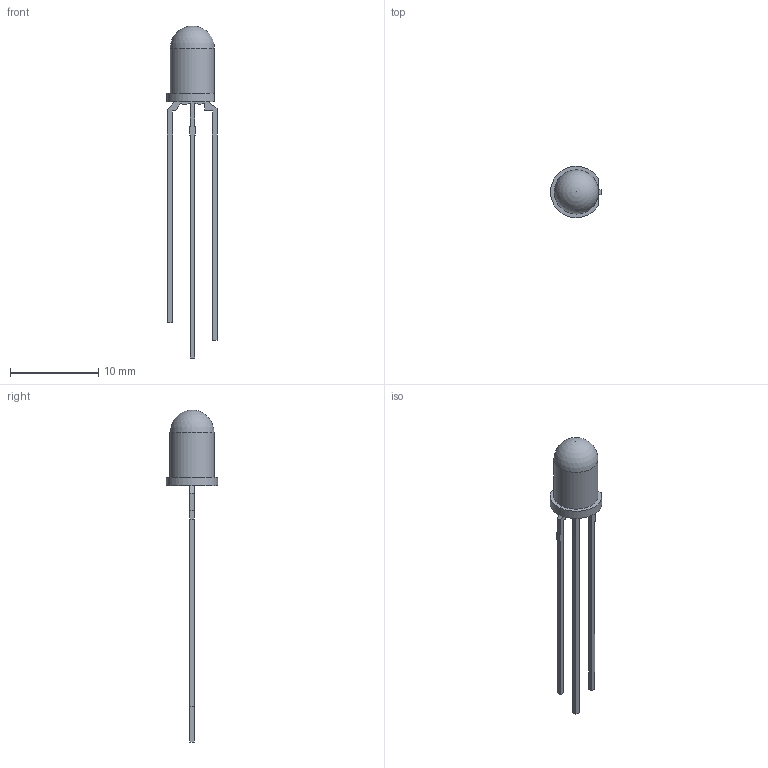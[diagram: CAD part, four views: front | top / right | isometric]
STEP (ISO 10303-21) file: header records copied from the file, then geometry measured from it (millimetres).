
FILE_DESCRIPTION(/* description */ ('STEP AP242','CAx-IF Rec.Pracs.---Representation and Presentation of Product Manufacturing Information (PMI)---4.0---2014-10-13','CAx-IF Rec.Pracs.---3D Tessellated Geometry---0.4---2014-09-14','2;1'),/* implementation_level */ '2;1');
FILE_NAME(/* name */ '62b625adae8fb23cede81473',/* time_stamp */ '2022-06-24T20:59:25+00:00',/* author */ (''),/* organization */ (''),/* preprocessor_version */ 'ST-DEVELOPER v18.102',/* originating_system */ ' ',/* authorisation */ ' ');
FILE_SCHEMA (('AP242_MANAGED_MODEL_BASED_3D_ENGINEERING_MIM_LF { 1 0 10303 442 1 1 4 }'));
Length unit declared in the file: metre
Products named in the file (3): QBL8RAG30D1; Leads; Lens
Assembly tree (2 placements, depth 2):
  QBL8RAG30D1
    Leads
    Lens
Bounding box: 5.76 x 5.85 x 37.6 mm (x, y, z)
Volume: 180 mm3; surface area: 340.5 mm2
Topology: 2 solids, 2 shells, 109 faces, 298 edges, 198 vertices
Faces by surface type: plane 73, bspline 29, cylinder 6, sphere 1
Full cylindrical faces by diameter (mm): 5 x1
Entity records: 3546 total; most frequent: CARTESIAN_POINT 927, ORIENTED_EDGE 588, DIRECTION 412, EDGE_CURVE 294, LINE 222, VECTOR 222, VERTEX_POINT 196, EDGE_LOOP 116
